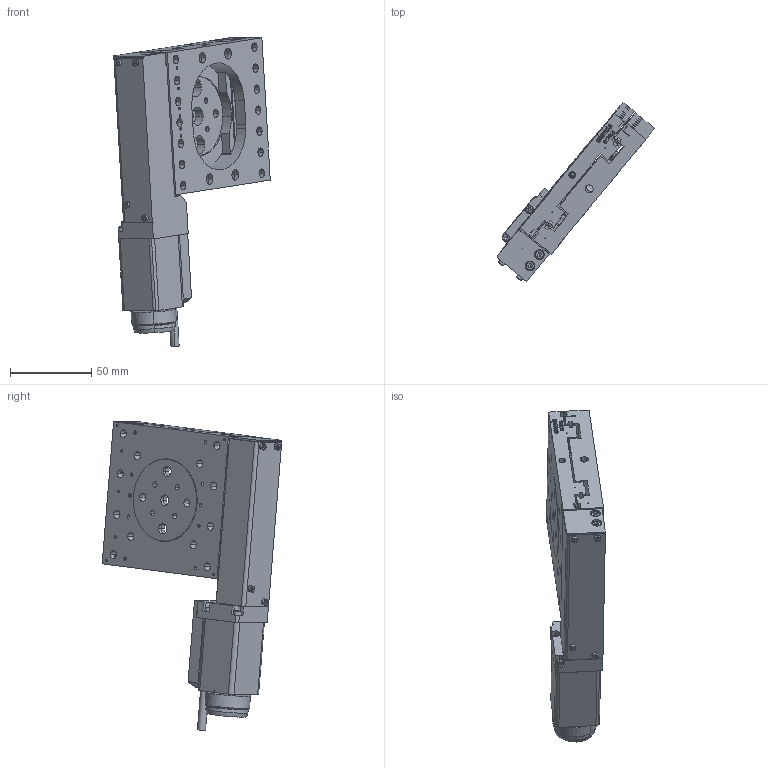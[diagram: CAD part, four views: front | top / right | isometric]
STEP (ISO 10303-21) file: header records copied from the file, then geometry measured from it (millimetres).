
FILE_DESCRIPTION (( 'STEP AP203' ), '1' );
FILE_NAME ('8MT167-25BS1.STEP', '2012-04-02T11:05:24', ( 'Darius' ), ( '' ), 'SwSTEP 2.0', 'SolidWorks 2003240', '' );
FILE_SCHEMA (( 'CONFIG_CONTROL_DESIGN' ));
Products named in the file (1): 8MT167-25BS1
Bounding box: 96.41 x 110.64 x 190.12 mm (x, y, z)
Volume: 249379.3 mm3; surface area: 82663.7 mm2
Topology: 1 solids, 38 shells, 1770 faces, 4720 edges, 2933 vertices
Faces by surface type: plane 673, cylinder 509, cone 297, bspline 291
Entity records: 167577 total; most frequent: CARTESIAN_POINT 126177, ORIENTED_EDGE 8922, DIRECTION 7863, EDGE_CURVE 4461, VERTEX_POINT 2933, AXIS2_PLACEMENT_3D 2859, LINE 2145, VECTOR 2145
